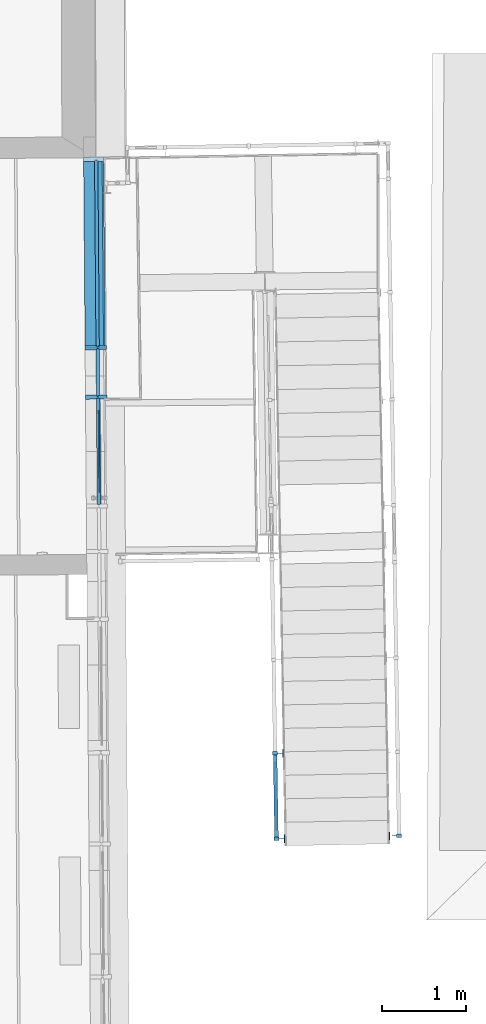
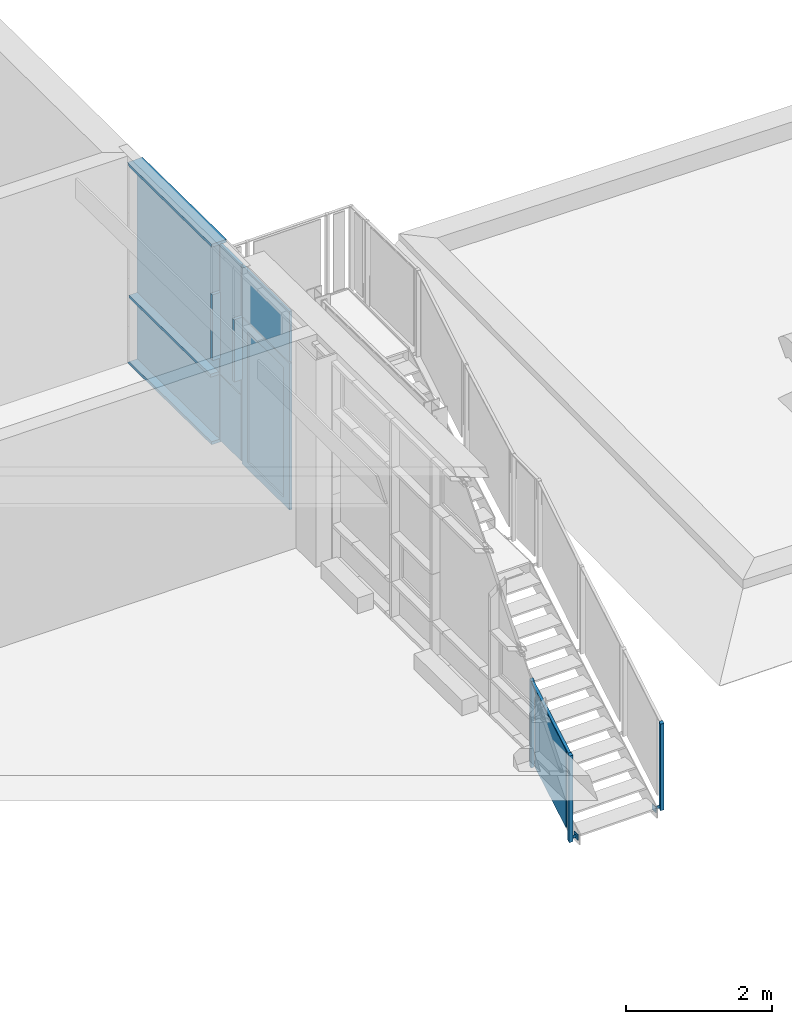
# One storey, part 106 of 158: 17 building element parts, 3 elements without a shape of their own.
"""IFC2X3 building model written with IfcOpenShell, lengths in metres."""

from ifc_helpers import new_model, entity, si_unit, converted_unit, derived_unit, money_unit, direction, frame, origin_with_axes, place, context, subcontext, project, spatial, faceted_brep, material, type_object, element, aggregate, save


model = new_model("IFC2X3")

# Units and contexts
model_context = context("Model", 3, precision=1e-05, world=origin_with_axes(), true_north=direction((0.0, 1.0)))
body_context = subcontext(model_context, "Body", "Model", "MODEL_VIEW")
ifc_project = project(units=[si_unit("LENGTHUNIT", "METRE"), si_unit("AREAUNIT", "SQUARE_METRE"), si_unit("VOLUMEUNIT", "CUBIC_METRE"), converted_unit("PLANEANGLEUNIT", "DEGREE", entity("IfcPlaneAngleMeasure", 0.0174532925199), si_unit("PLANEANGLEUNIT", "RADIAN"), dimensions=[0, 0, 0, 0, 0, 0, 0]), money_unit("EUR"), converted_unit("TIMEUNIT", "Year", entity("IfcTimeMeasure", 31556926.0), si_unit("TIMEUNIT", "SECOND"), dimensions=[0, 0, 1, 0, 0, 0, 0]), si_unit("MASSUNIT", "GRAM", prefix="KILO"), si_unit("THERMODYNAMICTEMPERATUREUNIT", "DEGREE_CELSIUS"), si_unit("LUMINOUSINTENSITYUNIT", "LUMEN"), si_unit("ENERGYUNIT", "JOULE", prefix="MEGA"), derived_unit("THERMALCONDUCTANCEUNIT", [(si_unit("POWERUNIT", "WATT"), 1), (si_unit("LENGTHUNIT", "METRE"), -1), (si_unit("THERMODYNAMICTEMPERATUREUNIT", "KELVIN"), -1)]), derived_unit("SPECIFICHEATCAPACITYUNIT", [(si_unit("ENERGYUNIT", "JOULE"), 1), (si_unit("MASSUNIT", "GRAM", prefix="KILO"), -1), (si_unit("THERMODYNAMICTEMPERATUREUNIT", "KELVIN"), -1)]), derived_unit("MASSDENSITYUNIT", [(si_unit("MASSUNIT", "GRAM", prefix="KILO"), 1), (si_unit("VOLUMEUNIT", "CUBIC_METRE"), -1)])], contexts=[model_context])

# Site, building, storey
site_placement = place(None, origin_with_axes())
site = spatial("IfcSite", under=ifc_project, at=site_placement, Name="Gelände", CompositionType="ELEMENT")
building_placement = place(site_placement, origin_with_axes())
building = spatial("IfcBuilding", under=site, at=building_placement, Name="Gebäude", CompositionType="ELEMENT")
storey_placement = place(building_placement, origin_with_axes())
storey = spatial("IfcBuildingStorey", under=building, at=storey_placement, Name="ERDGESCHOSS", CompositionType="ELEMENT", Elevation=0.0)

# Proxy, building element parts
building_element_proxy_type_1 = type_object("IfcBuildingElementProxyType", Name="Fassadentyp", PredefinedType="NOTDEFINED")
proxy_1_placement = place(storey_placement, frame((-15.5457352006, 40.9565245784, 1.34043905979), z_axis=(0.0, 0.0, 1.0), x_axis=(1.0, 0.0, 0.0)))
proxy_1 = element("IfcBuildingElementProxy", 1, at=proxy_1_placement, inside=storey, type_object=building_element_proxy_type_1, Name="Fassade-002")
ifc_material_1 = material(Name="53_Metall, Aluminium")
building_element_part_1_placement = place(proxy_1_placement, origin_with_axes())
building_element_part_1 = element("IfcBuildingElementPart", 2, at=building_element_part_1_placement, material=ifc_material_1, Name="53_Metall, Aluminium", context=body_context, shape_type="Brep", body=[
    faceted_brep([(0.0123043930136, 2.27430515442, 0.0), (0.0173042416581, 2.27434405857, 0.0), (0.0173042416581, 2.27434405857, 2.43491867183), (0.0123043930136, 2.27430515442, 2.43491867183), (0.0119542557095, 2.31930379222, 0.0), (0.016954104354, 2.31934269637, 0.0), (0.016954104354, 2.31934269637, 2.38991867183), (0.0119542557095, 2.31930379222, 2.38991867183)], [[[0, 1, 2, 3]], [[4, 5, 1, 0]], [[1, 5, 6, 2]], [[3, 2, 6, 7]], [[0, 3, 7, 4]], [[7, 6, 5, 4]]]),
    faceted_brep([(0.00258355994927, 3.52359862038, 2.43491867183), (0.00758340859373, 3.52363752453, 2.43491867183), (0.00793354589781, 3.47863888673, 2.38991867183), (0.00293369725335, 3.47859998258, 2.38991867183), (0.0123043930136, 2.27430515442, 2.43491867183), (0.0173042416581, 2.27434405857, 2.43491867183), (0.016954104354, 2.31934269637, 2.38991867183), (0.0119542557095, 2.31930379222, 2.38991867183)], [[[0, 1, 2, 3]], [[4, 5, 1, 0]], [[1, 5, 6, 2]], [[3, 2, 6, 7]], [[0, 3, 7, 4]], [[7, 6, 5, 4]]]),
    faceted_brep([(0.00258355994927, 3.52359862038, 0.0), (0.00758340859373, 3.52363752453, 0.0), (0.00793354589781, 3.47863888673, 0.0), (0.00293369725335, 3.47859998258, 0.0), (0.00258355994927, 3.52359862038, 2.43491867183), (0.00758340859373, 3.52363752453, 2.43491867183), (0.00793354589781, 3.47863888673, 2.38991867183), (0.00293369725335, 3.47859998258, 2.38991867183)], [[[0, 1, 2, 3]], [[4, 5, 1, 0]], [[1, 5, 6, 2]], [[3, 2, 6, 7]], [[0, 3, 7, 4]], [[7, 6, 5, 4]]]),
    faceted_brep([(-0.037694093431, 2.27391611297, 0.0), (0.0123043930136, 2.27430515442, 0.0), (0.0123043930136, 2.27430515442, 2.43491867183), (-0.037694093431, 2.27391611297, 2.43491867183), (-0.0378497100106, 2.29391550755, 0.0), (0.012148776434, 2.294304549, 0.0), (0.012148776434, 2.294304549, 2.41491867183), (-0.0378497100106, 2.29391550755, 2.41491867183)], [[[0, 1, 2, 3]], [[4, 5, 1, 0]], [[1, 5, 6, 2]], [[3, 2, 6, 7]], [[0, 3, 7, 4]], [[7, 6, 5, 4]]]),
    faceted_brep([(-0.0474149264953, 3.52320957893, 2.43491867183), (0.00258355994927, 3.52359862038, 2.43491867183), (0.00273917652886, 3.5035992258, 2.41491867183), (-0.0472593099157, 3.50321018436, 2.41491867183), (-0.037694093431, 2.27391611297, 2.43491867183), (0.0123043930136, 2.27430515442, 2.43491867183), (0.012148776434, 2.294304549, 2.41491867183), (-0.0378497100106, 2.29391550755, 2.41491867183)], [[[0, 1, 2, 3]], [[4, 5, 1, 0]], [[1, 5, 6, 2]], [[3, 2, 6, 7]], [[0, 3, 7, 4]], [[7, 6, 5, 4]]]),
    faceted_brep([(-0.0474149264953, 3.52320957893, 0.0), (0.00258355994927, 3.52359862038, 0.0), (0.00273917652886, 3.5035992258, 0.0), (-0.0472593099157, 3.50321018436, 0.0), (-0.0474149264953, 3.52320957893, 2.43491867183), (0.00258355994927, 3.52359862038, 2.43491867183), (0.00273917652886, 3.5035992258, 2.41491867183), (-0.0472593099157, 3.50321018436, 2.41491867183)], [[[0, 1, 2, 3]], [[4, 5, 1, 0]], [[1, 5, 6, 2]], [[3, 2, 6, 7]], [[0, 3, 7, 4]], [[7, 6, 5, 4]]]),
    faceted_brep([(-0.0375773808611, 2.25891654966, 0.0), (0.0024214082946, 2.25922778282, 0.0), (0.0024214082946, 2.25922778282, 2.4499186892), (-0.0375773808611, 2.25891654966, 2.4499186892), (-0.037694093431, 2.27391611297, 0.0), (0.00230469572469, 2.27422734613, 0.0), (0.00230469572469, 2.27422734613, 2.43491867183), (-0.037694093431, 2.27391611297, 2.43491867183)], [[[0, 1, 2, 3]], [[4, 5, 1, 0]], [[1, 5, 6, 2]], [[3, 2, 6, 7]], [[0, 3, 7, 4]], [[7, 6, 5, 4]]]),
    faceted_brep([(-0.0375773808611, 2.25891654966, 2.4499186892), (0.0024214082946, 2.25922778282, 2.4499186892), (-0.00753284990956, 3.5385203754, 2.4499186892), (-0.0475316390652, 3.53820914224, 2.4499186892), (-0.037694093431, 2.27391611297, 2.43491867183), (0.00230469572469, 2.27422734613, 2.43491867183), (-0.00741613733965, 3.52352081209, 2.43491867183), (-0.0474149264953, 3.52320957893, 2.43491867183)], [[[0, 1, 2, 3]], [[4, 5, 1, 0]], [[1, 5, 6, 2]], [[3, 2, 6, 7]], [[0, 3, 7, 4]], [[7, 6, 5, 4]]]),
    faceted_brep([(-0.0475316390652, 3.53820914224, 2.4499186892), (-0.00753284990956, 3.5385203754, 2.4499186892), (-0.00753284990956, 3.5385203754, 0.0), (-0.0475316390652, 3.53820914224, 0.0), (-0.0474149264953, 3.52320957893, 2.43491867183), (-0.00741613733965, 3.52352081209, 2.43491867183), (-0.00741613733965, 3.52352081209, 0.0), (-0.0474149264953, 3.52320957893, 0.0)], [[[0, 1, 2, 3]], [[4, 5, 1, 0]], [[1, 5, 6, 2]], [[3, 2, 6, 7]], [[0, 3, 7, 4]], [[7, 6, 5, 4]]]),
    faceted_brep([(0.00367287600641, 3.38360285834, 0.12), (0.00367287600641, 3.38360285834, 2.29491867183), (-0.0463256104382, 3.38321381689, 2.29491867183), (-0.0463256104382, 3.38321381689, 0.12), (0.00273917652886, 3.5035992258, 0.0), (0.00273917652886, 3.5035992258, 2.41491867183), (-0.0472593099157, 3.50321018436, 2.41491867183), (-0.0472593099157, 3.50321018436, 0.0)], [[[0, 1, 2, 3]], [[0, 4, 5, 1]], [[1, 5, 6, 2]], [[3, 2, 6, 7]], [[4, 0, 3, 7]], [[5, 4, 7, 6]]]),
    faceted_brep([(0.012148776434, 2.294304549, 0.0), (0.012148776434, 2.294304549, 2.41491867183), (-0.0378497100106, 2.29391550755, 2.41491867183), (-0.0378497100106, 2.29391550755, 0.0), (0.0112150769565, 2.41430091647, 0.12), (0.0112150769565, 2.41430091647, 2.29491867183), (-0.0387834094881, 2.41391187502, 2.29491867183), (-0.0387834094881, 2.41391187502, 0.12)], [[[0, 1, 2, 3]], [[0, 4, 5, 1]], [[1, 5, 6, 2]], [[3, 2, 6, 7]], [[4, 0, 3, 7]], [[5, 4, 7, 6]]]),
    faceted_brep([(0.012148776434, 2.294304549, 0.0), (0.0112150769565, 2.41430091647, 0.12), (-0.0387834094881, 2.41391187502, 0.12), (-0.0378497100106, 2.29391550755, 0.0), (0.00273917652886, 3.5035992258, 0.0), (0.00367287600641, 3.38360285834, 0.12), (-0.0463256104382, 3.38321381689, 0.12), (-0.0472593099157, 3.50321018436, 0.0)], [[[0, 1, 2, 3]], [[0, 4, 5, 1]], [[1, 5, 6, 2]], [[3, 2, 6, 7]], [[4, 0, 3, 7]], [[5, 4, 7, 6]]]),
    faceted_brep([(0.00273917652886, 3.5035992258, 2.41491867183), (0.00367287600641, 3.38360285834, 2.29491867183), (-0.0463256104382, 3.38321381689, 2.29491867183), (-0.0472593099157, 3.50321018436, 2.41491867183), (0.012148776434, 2.294304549, 2.41491867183), (0.0112150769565, 2.41430091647, 2.29491867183), (-0.0387834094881, 2.41391187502, 2.29491867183), (-0.0378497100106, 2.29391550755, 2.41491867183)], [[[0, 1, 2, 3]], [[0, 4, 5, 1]], [[1, 5, 6, 2]], [[3, 2, 6, 7]], [[4, 0, 3, 7]], [[5, 4, 7, 6]]]),
])
ifc_material_2 = material(Name="45_Glas, Normalglas")
building_element_part_2_placement = place(proxy_1_placement, origin_with_axes())
building_element_part_2 = element("IfcBuildingElementPart", 3, at=building_element_part_2_placement, material=ifc_material_2, Name="45_Glas, Normalglas", context=body_context, shape_type="Brep", body=[
    faceted_brep([(-0.00632682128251, 3.38352505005, 0.12), (0.00121537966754, 2.41422310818, 0.12), (-0.0147841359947, 2.41409861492, 0.12), (-0.0223263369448, 3.38340055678, 0.12), (-0.00632682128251, 3.38352505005, 2.29491867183), (0.00121537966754, 2.41422310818, 2.29491867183), (-0.0147841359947, 2.41409861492, 2.29491867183), (-0.0223263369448, 3.38340055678, 2.29491867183)], [[[0, 1, 2, 3]], [[0, 4, 5, 1]], [[1, 5, 6, 2]], [[3, 2, 6, 7]], [[4, 0, 3, 7]], [[5, 4, 7, 6]]]),
])
building_element_part_3_placement = place(proxy_1_placement, origin_with_axes())
building_element_part_3 = element("IfcBuildingElementPart", 4, at=building_element_part_3_placement, material=ifc_material_2, Name="45_Glas, Normalglas", context=body_context, shape_type="Brep", body=[
    faceted_brep([(-0.0476872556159, 3.5582085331, 1.12681094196), (-0.00768846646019, 3.55851976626, 1.12681094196), (-0.00956783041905, 3.80005020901, 1.12681092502), (-0.0495666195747, 3.79973897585, 1.12681092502), (-0.0476872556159, 3.5582085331, 0.619999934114), (-0.00768846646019, 3.55851976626, 0.619999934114), (-0.00768846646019, 3.55851976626, 0.0350000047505), (-0.00956783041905, 3.80005020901, 0.0350000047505), (-0.0121255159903, 4.12875659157, 0.0350000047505), (-0.0121255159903, 4.12875659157, 0.619999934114), (-0.0121255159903, 4.12875659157, 1.1268109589), (-0.0521243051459, 4.12844535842, 1.1268109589), (-0.0521243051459, 4.12844535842, 0.619999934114), (-0.0521243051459, 4.12844535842, 0.0350000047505), (-0.0495666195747, 3.79973897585, 0.0350000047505), (-0.0476872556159, 3.5582085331, 0.0350000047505)], [[[0, 1, 2, 3]], [[4, 5, 1, 0]], [[1, 5, 6, 7, 8, 9, 10, 2]], [[3, 2, 10, 11]], [[0, 3, 11, 12, 13, 14, 15, 4]], [[15, 6, 5, 4]], [[14, 7, 6, 15]], [[13, 8, 7, 14]], [[12, 9, 8, 13]], [[11, 10, 9, 12]]]),
])
building_element_part_4_placement = place(proxy_1_placement, origin_with_axes())
building_element_part_4 = element("IfcBuildingElementPart", 5, at=building_element_part_4_placement, material=ifc_material_2, Name="45_Glas, Normalglas", context=body_context, shape_type="Brep", body=[
    faceted_brep([(-0.0522799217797, 4.14844475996, 3.31499987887), (-0.012281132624, 4.14875599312, 3.31499987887), (-0.0296173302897, 6.37675418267, 3.31499987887), (-0.0696161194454, 6.37644294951, 3.31499987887), (-0.0522799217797, 4.14844475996, 2.5199999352), (-0.012281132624, 4.14875599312, 2.5199999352), (-0.012281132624, 4.14875599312, 1.41999993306), (-0.012281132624, 4.14875599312, 1.14681096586), (-0.0296173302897, 6.37675418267, 1.14681096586), (-0.0296173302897, 6.37675418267, 1.41999993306), (-0.0296173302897, 6.37675418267, 2.5199999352), (-0.0696161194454, 6.37644294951, 2.5199999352), (-0.0696161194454, 6.37644294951, 1.41999993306), (-0.0696161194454, 6.37644294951, 1.14681096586), (-0.0522799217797, 4.14844475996, 1.14681096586), (-0.0522799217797, 4.14844475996, 1.41999993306)], [[[0, 1, 2, 3]], [[4, 5, 1, 0]], [[1, 5, 6, 7, 8, 9, 10, 2]], [[3, 2, 10, 11]], [[0, 3, 11, 12, 13, 14, 15, 4]], [[15, 6, 5, 4]], [[14, 7, 6, 15]], [[13, 8, 7, 14]], [[12, 9, 8, 13]], [[11, 10, 9, 12]]]),
])
building_element_part_5_placement = place(proxy_1_placement, origin_with_axes())
building_element_part_5 = element("IfcBuildingElementPart", 6, at=building_element_part_5_placement, material=ifc_material_2, Name="45_Glas, Normalglas", context=body_context, shape_type="Brep", body=[
    faceted_brep([(-0.0375773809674, 2.25891656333, 3.31499987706), (0.00242140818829, 2.25922779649, 3.31499987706), (-0.00256508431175, 2.90007744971, 3.31499987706), (-0.0425638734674, 2.89976621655, 3.31499987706), (-0.037577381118, 2.25891658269, 2.51999994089), (0.00242140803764, 2.25922781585, 2.51999994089), (0.00242140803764, 2.25922781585, 2.4699186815), (-0.00256508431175, 2.90007744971, 2.4699186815), (-0.00753284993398, 3.53852037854, 2.4699186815), (-0.00753284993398, 3.53852037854, 2.51999994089), (-0.00753284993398, 3.53852037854, 3.31499987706), (-0.0475316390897, 3.53820914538, 3.31499987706), (-0.0475316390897, 3.53820914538, 2.51999994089), (-0.0475316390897, 3.53820914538, 2.4699186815), (-0.0425638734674, 2.89976621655, 2.4699186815), (-0.037577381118, 2.25891658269, 2.4699186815)], [[[0, 1, 2, 3]], [[4, 5, 1, 0]], [[1, 5, 6, 7, 8, 9, 10, 2]], [[3, 2, 10, 11]], [[0, 3, 11, 12, 13, 14, 15, 4]], [[15, 6, 5, 4]], [[14, 7, 6, 15]], [[13, 8, 7, 14]], [[12, 9, 8, 13]], [[11, 10, 9, 12]]]),
])
building_element_part_6_placement = place(proxy_1_placement, origin_with_axes())
building_element_part_6 = element("IfcBuildingElementPart", 7, at=building_element_part_6_placement, material=ifc_material_2, Name="45_Glas, Normalglas", context=body_context, shape_type="Brep", body=[
    faceted_brep([(-0.0522799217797, 4.14844475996, 1.12681097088), (-0.012281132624, 4.14875599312, 1.12681097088), (-0.0296173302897, 6.37675418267, 1.12681097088), (-0.0696161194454, 6.37644294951, 1.12681097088), (-0.0522799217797, 4.14844475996, 0.619999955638), (-0.012281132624, 4.14875599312, 0.619999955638), (-0.012281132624, 4.14875599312, 0.0350000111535), (-0.0296173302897, 6.37675418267, 0.0350000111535), (-0.0296173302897, 6.37675418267, 0.619999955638), (-0.0696161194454, 6.37644294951, 0.619999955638), (-0.0696161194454, 6.37644294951, 0.0350000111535), (-0.0522799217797, 4.14844475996, 0.0350000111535)], [[[0, 1, 2, 3]], [[4, 5, 1, 0]], [[1, 5, 6, 7, 8, 2]], [[3, 2, 8, 9]], [[0, 3, 9, 10, 11, 4]], [[11, 6, 5, 4]], [[10, 7, 6, 11]], [[9, 8, 7, 10]]]),
])
building_element_part_7_placement = place(proxy_1_placement, origin_with_axes())
building_element_part_7 = element("IfcBuildingElementPart", 8, at=building_element_part_7_placement, material=ifc_material_2, Name="45_Glas, Normalglas", context=body_context, shape_type="Brep", body=[
    faceted_brep([(-0.0476872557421, 3.55820854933, 3.31499986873), (-0.00768846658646, 3.55851978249, 3.31499986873), (-0.00956783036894, 3.80005020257, 3.31499986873), (-0.0495666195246, 3.79973896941, 3.31499986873), (-0.0476872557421, 3.55820854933, 2.51999993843), (-0.00768846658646, 3.55851978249, 2.51999993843), (-0.00768846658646, 3.55851978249, 2.45991868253), (-0.00768846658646, 3.55851978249, 1.41999993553), (-0.00768846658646, 3.55851978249, 1.14681092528), (-0.00956783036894, 3.80005020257, 1.14681092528), (-0.0121255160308, 4.12875659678, 1.14681095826), (-0.0121255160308, 4.12875659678, 1.41999993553), (-0.0121255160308, 4.12875659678, 2.51999993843), (-0.0121255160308, 4.12875659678, 3.31499986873), (-0.0521243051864, 4.12844536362, 3.31499986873), (-0.0521243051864, 4.12844536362, 2.51999993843), (-0.0521243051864, 4.12844536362, 1.41999993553), (-0.0521243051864, 4.12844536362, 1.14681095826), (-0.0495666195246, 3.79973896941, 1.14681092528), (-0.0476872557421, 3.55820854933, 1.14681092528), (-0.0476872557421, 3.55820854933, 1.41999993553), (-0.0476872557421, 3.55820854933, 2.45991868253)], [[[0, 1, 2, 3]], [[4, 5, 1, 0]], [[1, 5, 6, 7, 8, 9, 10, 11, 12, 13, 2]], [[3, 2, 13, 14]], [[0, 3, 14, 15, 16, 17, 18, 19, 20, 21, 4]], [[21, 6, 5, 4]], [[20, 7, 6, 21]], [[19, 8, 7, 20]], [[18, 9, 8, 19]], [[17, 10, 9, 18]], [[16, 11, 10, 17]], [[15, 12, 11, 16]], [[14, 13, 12, 15]]]),
])
building_element_part_8_placement = place(proxy_1_placement, origin_with_axes())
building_element_part_8 = element("IfcBuildingElementPart", 9, at=building_element_part_8_placement, material=ifc_material_1, Name="53_Metall, Aluminium", context=body_context, shape_type="Brep", body=[
    faceted_brep([(-0.0421246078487, 4.12852316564, 2.51999994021), (-0.0221252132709, 4.12867878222, 2.51999994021), (-0.0220085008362, 4.11367923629, 2.51999994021), (0.0729886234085, 4.11441841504, 2.51999994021), (0.0725995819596, 4.16441690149, 2.51999994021), (-0.0223975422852, 4.16367772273, 2.51999994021), (-0.0222808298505, 4.1486781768, 2.51999994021), (-0.0422802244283, 4.14852256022, 2.51999994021), (-0.042396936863, 4.16352210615, 2.51999994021), (-0.182392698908, 4.1624327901, 2.51999994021), (-0.182003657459, 4.11243430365, 2.51999994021), (-0.0420078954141, 4.11352361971, 2.51999994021), (-0.0421246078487, 4.12852316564, 1.41999994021), (-0.0221252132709, 4.12867878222, 1.41999994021), (-0.0220085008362, 4.11367923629, 1.41999994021), (0.0729886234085, 4.11441841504, 1.41999994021), (0.0725995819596, 4.16441690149, 1.41999994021), (-0.0223975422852, 4.16367772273, 1.41999994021), (-0.0222808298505, 4.1486781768, 1.41999994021), (-0.0422802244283, 4.14852256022, 1.41999994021), (-0.042396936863, 4.16352210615, 1.41999994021), (-0.182392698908, 4.1624327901, 1.41999994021), (-0.182003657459, 4.11243430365, 1.41999994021), (-0.0420078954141, 4.11352361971, 1.41999994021)], [[[0, 1, 2, 3, 4, 5, 6, 7, 8, 9, 10, 11]], [[0, 12, 13, 1]], [[1, 13, 14, 2]], [[14, 15, 3, 2]], [[3, 15, 16, 4]], [[17, 5, 4, 16]], [[5, 17, 18, 6]], [[7, 6, 18, 19]], [[8, 7, 19, 20]], [[8, 20, 21, 9]], [[9, 21, 22, 10]], [[11, 10, 22, 23]], [[11, 23, 12, 0]], [[13, 12, 23, 22, 21, 20, 19, 18, 17, 16, 15, 14]]]),
])
building_element_part_9_placement = place(proxy_1_placement, origin_with_axes())
building_element_part_9 = element("IfcBuildingElementPart", 10, at=building_element_part_9_placement, material=ifc_material_1, Name="53_Metall, Aluminium", context=body_context, shape_type="Brep", body=[
    faceted_brep([(-0.0422024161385, 4.13852286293, 3.31499987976), (-0.0222030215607, 4.13867847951, 3.31499987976), (-0.0222030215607, 4.13867847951, 3.29999987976), (0.0577945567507, 4.13930094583, 3.29999987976), (0.0577945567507, 4.13930094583, 3.34999987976), (-0.182198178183, 4.13743354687, 3.34999987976), (-0.182198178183, 4.13743354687, 3.29999987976), (-0.0422024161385, 4.13852286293, 3.29999987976), (-0.0596164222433, 6.37652076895, 3.31499987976), (-0.0396170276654, 6.37667638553, 3.31499987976), (-0.0395003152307, 6.3616768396, 3.29999987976), (0.0404972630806, 6.36229930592, 3.29999987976), (0.0401082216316, 6.41229779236, 3.34999987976), (-0.199884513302, 6.41043039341, 3.34999987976), (-0.199495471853, 6.36043190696, 3.29999987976), (-0.0594997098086, 6.36152122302, 3.29999987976)], [[[0, 1, 2, 3, 4, 5, 6, 7]], [[1, 0, 8, 9]], [[10, 2, 1, 9]], [[2, 10, 11, 3]], [[4, 3, 11, 12]], [[5, 4, 12, 13]], [[6, 5, 13, 14]], [[15, 7, 6, 14]], [[0, 7, 15, 8]], [[8, 15, 14, 13, 12, 11, 10, 9]]]),
])
building_element_part_10_placement = place(proxy_1_placement, origin_with_axes())
building_element_part_10 = element("IfcBuildingElementPart", 11, at=building_element_part_10_placement, material=ifc_material_1, Name="53_Metall, Aluminium", context=body_context, shape_type="Brep", body=[
    faceted_brep([(-0.0375319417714, 3.5382869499, 2.45991868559), (-0.0175325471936, 3.53844256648, 2.45991868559), (-0.0174158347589, 3.52344302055, 2.45991868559), (0.0775812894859, 3.5241821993, 2.45991868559), (0.0771922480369, 3.57418068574, 2.45991868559), (-0.0178048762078, 3.57344150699, 2.45991868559), (-0.0176881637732, 3.55844196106, 2.45991868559), (-0.037687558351, 3.55828634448, 2.45991868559), (-0.0378042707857, 3.57328589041, 2.45991868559), (-0.177800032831, 3.57219657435, 2.45991868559), (-0.177410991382, 3.52219808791, 2.45991868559), (-0.0374152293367, 3.52328740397, 2.45991868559), (-0.0375319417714, 3.5382869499, 1.41999993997), (-0.0175325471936, 3.53844256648, 1.41999993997), (-0.0174158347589, 3.52344302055, 1.41999993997), (0.0775812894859, 3.5241821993, 1.41999993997), (0.0771922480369, 3.57418068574, 1.41999993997), (-0.0178048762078, 3.57344150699, 1.41999993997), (-0.0176881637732, 3.55844196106, 1.41999993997), (-0.037687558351, 3.55828634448, 1.41999993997), (-0.0378042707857, 3.57328589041, 1.41999993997), (-0.177800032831, 3.57219657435, 1.41999993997), (-0.177410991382, 3.52219808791, 1.41999993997), (-0.0374152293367, 3.52328740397, 1.41999993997)], [[[0, 1, 2, 3, 4, 5, 6, 7, 8, 9, 10, 11]], [[0, 12, 13, 1]], [[1, 13, 14, 2]], [[14, 15, 3, 2]], [[3, 15, 16, 4]], [[17, 5, 4, 16]], [[5, 17, 18, 6]], [[7, 6, 18, 19]], [[8, 7, 19, 20]], [[8, 20, 21, 9]], [[9, 21, 22, 10]], [[11, 10, 22, 23]], [[11, 23, 12, 0]], [[13, 12, 23, 22, 21, 20, 19, 18, 17, 16, 15, 14]]]),
])
building_element_part_11_placement = place(proxy_1_placement, origin_with_axes())
building_element_part_11 = element("IfcBuildingElementPart", 12, at=building_element_part_11_placement, material=ifc_material_1, Name="53_Metall, Aluminium", context=body_context, shape_type="Brep", body=[
    faceted_brep([(-0.042396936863, 4.16352210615, 1.12681095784), (-0.0223975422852, 4.16367772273, 1.12681095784), (-0.0223975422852, 4.16367772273, 1.11181095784), (0.0376006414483, 4.16414457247, 1.11181095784), (0.0376006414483, 4.16414457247, 1.16181095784), (-0.0223975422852, 4.16367772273, 1.16181095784), (-0.0223975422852, 4.16367772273, 1.14681095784), (-0.042396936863, 4.16352210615, 1.14681095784), (-0.042396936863, 4.16352210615, 1.16181095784), (-0.182392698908, 4.1624327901, 1.16181095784), (-0.182392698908, 4.1624327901, 1.11181095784), (-0.042396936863, 4.16352210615, 1.11181095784), (-0.0594997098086, 6.36152122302, 1.12681095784), (-0.0395003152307, 6.3616768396, 1.12681095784), (-0.0395003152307, 6.3616768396, 1.11181095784), (0.0204978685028, 6.36214368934, 1.11181095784), (0.0204978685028, 6.36214368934, 1.16181095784), (-0.0395003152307, 6.3616768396, 1.16181095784), (-0.0395003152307, 6.3616768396, 1.14681095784), (-0.0594997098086, 6.36152122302, 1.14681095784), (-0.0594997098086, 6.36152122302, 1.16181095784), (-0.199495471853, 6.36043190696, 1.16181095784), (-0.199495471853, 6.36043190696, 1.11181095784), (-0.0594997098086, 6.36152122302, 1.11181095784)], [[[0, 1, 2, 3, 4, 5, 6, 7, 8, 9, 10, 11]], [[0, 12, 13, 1]], [[1, 13, 14, 2]], [[14, 15, 3, 2]], [[4, 3, 15, 16]], [[17, 5, 4, 16]], [[5, 17, 18, 6]], [[7, 6, 18, 19]], [[8, 7, 19, 20]], [[8, 20, 21, 9]], [[10, 9, 21, 22]], [[11, 10, 22, 23]], [[11, 23, 12, 0]], [[13, 12, 23, 22, 21, 20, 19, 18, 17, 16, 15, 14]]]),
])
building_element_part_12_placement = place(proxy_1_placement, origin_with_axes())
building_element_part_12 = element("IfcBuildingElementPart", 13, at=building_element_part_12_placement, material=ifc_material_1, Name="53_Metall, Aluminium", context=body_context, shape_type="Brep", body=[
    faceted_brep([(-0.0422024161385, 4.13852286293, 0.035), (-0.0422024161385, 4.13852286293, 0.05), (-0.182198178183, 4.13743354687, 0.05), (-0.182198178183, 4.13743354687, 0.0), (0.0577945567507, 4.13930094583, 0.0), (0.0577945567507, 4.13930094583, 0.05), (-0.0222030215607, 4.13867847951, 0.05), (-0.0222030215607, 4.13867847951, 0.035), (-0.0596164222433, 6.37652076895, 0.035), (-0.0594997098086, 6.36152122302, 0.05), (-0.199495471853, 6.36043190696, 0.05), (-0.199884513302, 6.41043039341, 0.0), (0.0401082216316, 6.41229779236, 0.0), (0.0404972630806, 6.36229930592, 0.05), (-0.0395003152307, 6.3616768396, 0.05), (-0.0396170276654, 6.37667638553, 0.035)], [[[0, 1, 2, 3, 4, 5, 6, 7]], [[0, 8, 9, 1]], [[9, 10, 2, 1]], [[2, 10, 11, 3]], [[3, 11, 12, 4]], [[4, 12, 13, 5]], [[6, 5, 13, 14]], [[14, 15, 7, 6]], [[7, 15, 8, 0]], [[8, 15, 14, 13, 12, 11, 10, 9]]]),
])
aggregate(proxy_1, [building_element_part_1, building_element_part_2, building_element_part_3, building_element_part_4, building_element_part_5, building_element_part_6, building_element_part_7, building_element_part_8, building_element_part_9, building_element_part_10, building_element_part_11, building_element_part_12])

building_element_proxy_type_2 = type_object("IfcBuildingElementProxyType", Name="Geländerart", PredefinedType="NOTDEFINED")
proxy_2_placement = place(storey_placement, frame((-13.4431717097, 39.2328276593, -2.51797066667), z_axis=(0.0, 0.0, 1.0), x_axis=(1.0, 0.0, 0.0)))
proxy_2 = element("IfcBuildingElementProxy", 14, at=proxy_2_placement, inside=storey, type_object=building_element_proxy_type_2, Name="Geländer-001")
ifc_material_3 = material(Name="56_Metall, Stahl verzinkt")
building_element_part_13_placement = place(proxy_2_placement, origin_with_axes())
building_element_part_13 = element("IfcBuildingElementPart", 15, at=building_element_part_13_placement, material=ifc_material_3, Name="56_Metall, Stahl verzinkt", context=body_context, shape_type="Brep", body=[
    faceted_brep([(0.0299561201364, 0.00298007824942, 0.025), (0.0299561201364, 0.00298007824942, 0.075), (0.0899484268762, 0.00394087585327, 0.075), (0.0899484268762, 0.00394087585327, 0.025), (0.0300361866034, -0.00201928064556, 0.075), (0.0300361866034, -0.00201928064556, 0.025), (0.0900284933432, -0.00105848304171, 0.075), (0.0900284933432, -0.00105848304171, 0.025)], [[[0, 1, 2, 3]], [[4, 1, 0, 5]], [[1, 4, 6, 2]], [[3, 2, 6, 7]], [[5, 0, 3, 7]], [[4, 5, 7, 6]]]),
    faceted_brep([(0.0991865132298, 0.0515949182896, 0.1), (0.0891877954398, 0.0514347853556, 0.1), (0.0907891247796, -0.0485523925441, 0.1), (0.10078784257, -0.0483922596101, 0.1), (0.0991865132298, 0.0515949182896, 0.0), (0.0891877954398, 0.0514347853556, 0.0), (0.0907891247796, -0.0485523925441, 0.0), (0.10078784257, -0.0483922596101, 0.0)], [[[0, 1, 2, 3]], [[4, 5, 1, 0]], [[1, 5, 6, 2]], [[3, 2, 6, 7]], [[0, 3, 7, 4]], [[7, 6, 5, 4]]]),
    faceted_brep([(0.029675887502, 0.0204778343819, 0.0123839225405), (-0.0303164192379, 0.019517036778, 0.0123839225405), (-0.0303164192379, 0.019517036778, 1.45738392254), (0.029675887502, 0.0204778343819, 1.45738392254), (0.0303164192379, -0.019517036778, -0.0123839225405), (-0.029675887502, -0.0204778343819, -0.0123839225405), (-0.029675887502, -0.0204778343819, 1.43261607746), (0.0303164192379, -0.019517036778, 1.43261607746)], [[[0, 1, 2, 3]], [[0, 4, 5, 1]], [[1, 5, 6, 2]], [[3, 2, 6, 7]], [[4, 0, 3, 7]], [[5, 4, 7, 6]]]),
])
building_element_part_14_placement = place(proxy_2_placement, origin_with_axes())
building_element_part_14 = element("IfcBuildingElementPart", 16, at=building_element_part_14_placement, material=ifc_material_3, Name="56_Metall, Stahl verzinkt", context=body_context, shape_type="Brep", body=[
    faceted_brep([(0.0135972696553, 1.02442847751, 0.657558), (0.0135972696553, 1.02442847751, 0.707558), (0.0735895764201, 1.02538927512, 0.707558), (0.0735895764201, 1.02538927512, 0.657558), (0.0136773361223, 1.01942911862, 0.707558), (0.0136773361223, 1.01942911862, 0.657558), (0.0736696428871, 1.02038991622, 0.707558), (0.0736696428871, 1.02038991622, 0.657558)], [[[0, 1, 2, 3]], [[4, 1, 0, 5]], [[1, 4, 6, 2]], [[3, 2, 6, 7]], [[5, 0, 3, 7]], [[4, 5, 7, 6]]]),
    faceted_brep([(0.0828276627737, 1.07304331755, 0.732558), (0.0728289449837, 1.07288318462, 0.732558), (0.0744302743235, 0.972896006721, 0.732558), (0.0844289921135, 0.973056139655, 0.732558), (0.0828276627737, 1.07304331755, 0.632558), (0.0728289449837, 1.07288318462, 0.632558), (0.0744302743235, 0.972896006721, 0.632558), (0.0844289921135, 0.973056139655, 0.632558)], [[[0, 1, 2, 3]], [[4, 5, 1, 0]], [[1, 5, 6, 2]], [[3, 2, 6, 7]], [[0, 3, 7, 4]], [[7, 6, 5, 4]]]),
    faceted_brep([(0.0133170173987, 1.04192745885, 0.645056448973), (-0.0466752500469, 1.04096421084, 0.645060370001), (-0.0466752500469, 1.04096421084, 2.09006037), (0.0133170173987, 1.04192745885, 2.09005644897), (0.0139575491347, 1.00193258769, 0.620055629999), (-0.046034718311, 1.00096933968, 0.620059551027), (-0.046034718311, 1.00096933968, 2.06505955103), (0.0139575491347, 1.00193258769, 2.06505563)], [[[0, 1, 2, 3]], [[0, 4, 5, 1]], [[1, 5, 6, 2]], [[3, 2, 6, 7]], [[4, 0, 3, 7]], [[5, 4, 7, 6]]]),
])
building_element_part_15_placement = place(proxy_2_placement, origin_with_axes())
building_element_part_15 = element("IfcBuildingElementPart", 17, at=building_element_part_15_placement, material=ifc_material_3, Name="56_Metall, Stahl verzinkt", context=body_context, shape_type="Brep", body=[
    faceted_brep([(0.0224971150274, 0.000360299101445, 1.445), (0.0223706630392, 0.0082559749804, 1.43224687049), (0.00600975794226, 1.02976114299, 2.06483803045), (-0.0224971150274, -0.000360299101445, 1.445), (-0.0226235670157, 0.00753537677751, 1.43224687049), (-0.0389843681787, 1.02903406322, 2.06483803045), (0.00613821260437, 1.02181193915, 2.077558), (-0.0388559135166, 1.02108485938, 2.077558)], [[[0, 1, 2]], [[0, 3, 4, 1]], [[1, 5, 2]], [[0, 2, 6]], [[3, 0, 6]], [[4, 3, 7]], [[1, 4, 5]], [[6, 2, 5, 7]], [[3, 6, 7]], [[4, 7, 5]]]),
])
building_element_part_16_placement = place(proxy_2_placement, origin_with_axes())
building_element_part_16 = element("IfcBuildingElementPart", 18, at=building_element_part_16_placement, material=ifc_material_3, Name="56_Metall, Stahl verzinkt", context=body_context, shape_type="Brep", body=[
    faceted_brep([(-0.0247562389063, 0.921301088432, 0.670638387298), (-0.0116000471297, 0.0998270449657, 0.161919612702), (-0.0116000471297, 0.0998270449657, 1.4569196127), (-0.0247562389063, 0.921301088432, 1.9656383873), (-0.0119203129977, 0.119824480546, 1.4457798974), (-0.0119203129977, 0.119824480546, 0.197827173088), (-0.0244359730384, 0.901303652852, 0.681778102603), (-0.0244359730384, 0.901303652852, 1.92973082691), (0.00839738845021, 0.100147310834, 0.161919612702), (-0.00475880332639, 0.9216213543, 0.670638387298), (0.00839738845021, 0.100147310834, 1.4569196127), (-0.00475880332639, 0.9216213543, 1.9656383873), (0.00807712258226, 0.120144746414, 0.197827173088), (0.00807712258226, 0.120144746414, 1.4457798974), (-0.00443853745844, 0.90162391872, 0.681778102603), (-0.00443853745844, 0.90162391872, 1.92973082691)], [[[0, 1, 2, 3], [4, 5, 6, 7]], [[8, 1, 0, 9]], [[10, 2, 1, 8]], [[3, 2, 10, 11]], [[0, 3, 11, 9]], [[12, 5, 4, 13]], [[14, 6, 5, 12]], [[7, 6, 14, 15]], [[4, 7, 15, 13]], [[10, 8, 9, 11], [14, 12, 13, 15]]]),
    faceted_brep([(-0.0244359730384, 0.901303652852, 0.681778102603), (-0.0119203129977, 0.119824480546, 0.197827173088), (-0.0119203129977, 0.119824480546, 1.4457798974), (-0.0244359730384, 0.901303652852, 1.92973082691), (0.00807712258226, 0.120144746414, 0.197827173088), (-0.00443853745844, 0.90162391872, 0.681778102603), (0.00807712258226, 0.120144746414, 1.4457798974), (-0.00443853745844, 0.90162391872, 1.92973082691)], [[[0, 1, 2, 3]], [[4, 1, 0, 5]], [[6, 2, 1, 4]], [[3, 2, 6, 7]], [[0, 3, 7, 5]], [[6, 4, 5, 7]]]),
])
aggregate(proxy_2, [building_element_part_13, building_element_part_14, building_element_part_15, building_element_part_16])

# Proxy, building element part
proxy_3_placement = place(storey_placement, frame((-12.121386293, 39.1724071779, -2.51797066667), z_axis=(0.0, 0.0, 1.0), x_axis=(1.0, 0.0, 0.0)))
proxy_3 = element("IfcBuildingElementProxy", 19, at=proxy_3_placement, inside=storey, type_object=building_element_proxy_type_2, Name="Geländer-001")
building_element_part_17_placement = place(proxy_3_placement, origin_with_axes())
building_element_part_17 = element("IfcBuildingElementPart", 20, at=building_element_part_17_placement, material=ifc_material_3, Name="56_Metall, Stahl verzinkt", context=body_context, shape_type="Brep", body=[
    faceted_brep([(0.110954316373, 0.092583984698, 0.075), (0.110874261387, 0.0975833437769, 0.075), (0.0308845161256, 0.096302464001, 0.075), (0.0309645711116, 0.0913031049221, 0.075), (0.110874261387, 0.0975833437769, 0.025), (0.110954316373, 0.092583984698, 0.025), (0.0308845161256, 0.096302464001, 0.025), (0.0309645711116, 0.0913031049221, 0.025)], [[[0, 1, 2, 3]], [[4, 1, 0, 5]], [[1, 4, 6, 2]], [[7, 3, 2, 6]], [[5, 0, 3, 7]], [[4, 5, 7, 6]]]),
    faceted_brep([(0.0217263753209, 0.0436490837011, 0.1), (0.0317250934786, 0.0438091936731, 0.1), (0.0301239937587, 0.14379637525, 0.1), (0.020125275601, 0.143636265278, 0.1), (0.0217263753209, 0.0436490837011, 0.0), (0.0317250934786, 0.0438091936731, 0.0), (0.0301239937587, 0.14379637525, 0.0), (0.020125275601, 0.143636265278, 0.0)], [[[0, 1, 2, 3]], [[4, 5, 1, 0]], [[1, 5, 6, 2]], [[3, 2, 6, 7]], [[0, 3, 7, 4]], [[7, 6, 5, 4]]]),
    faceted_brep([(0.170586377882, 0.116041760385, 0.0126284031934), (0.110594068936, 0.115081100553, 0.0126284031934), (0.110594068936, 0.115081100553, 1.45762840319), (0.170586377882, 0.116041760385, 1.45762840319), (0.17122681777, 0.076046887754, -0.0126284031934), (0.111234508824, 0.0750862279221, -0.0126284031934), (0.111234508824, 0.0750862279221, 1.43237159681), (0.17122681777, 0.076046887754, 1.43237159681)], [[[0, 1, 2, 3]], [[0, 4, 5, 1]], [[1, 5, 6, 2]], [[3, 2, 6, 7]], [[4, 0, 3, 7]], [[5, 4, 7, 6]]]),
])
aggregate(proxy_3, [building_element_part_17])

save(model, "model.ifc")
